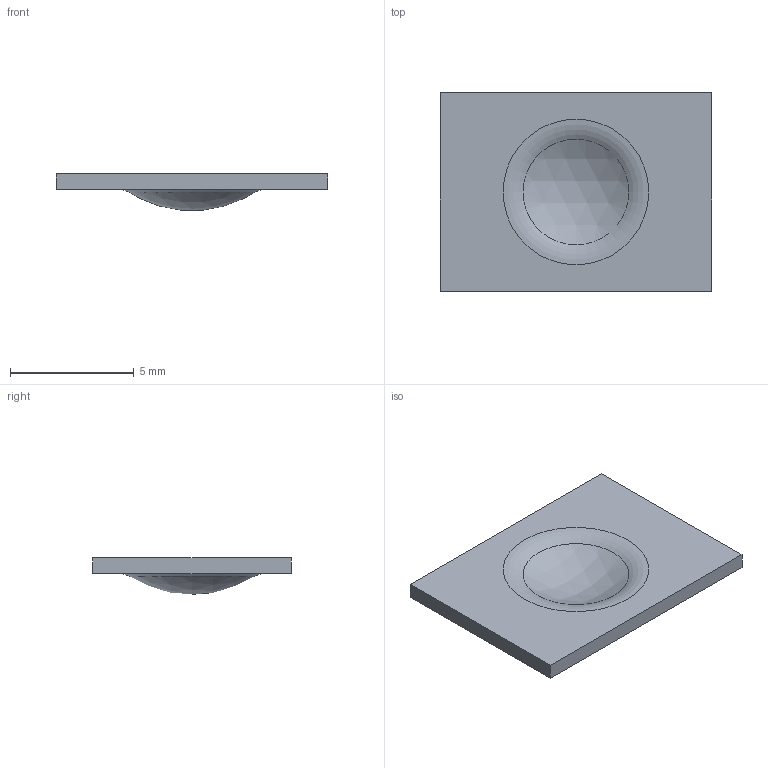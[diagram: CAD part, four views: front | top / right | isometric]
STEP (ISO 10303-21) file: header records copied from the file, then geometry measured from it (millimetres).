
FILE_DESCRIPTION((''),'1');
FILE_NAME('C:/Users/ericfrey/Desktop/DIMPLE 16-0198-02 REV NONE.stp', '2018-09-06T19:50:00',(''), (''), 'KCM Version 1.1.2450.0', 'KeyCreator', '');
FILE_SCHEMA(('AUTOMOTIVE_DESIGN'));
Length unit declared in the file: inch
Bounding box: 10.94 x 8 x 1.47 mm (x, y, z)
Volume: 57.2 mm3; surface area: 203.1 mm2
Topology: 1 solids, 1 shells, 10 faces, 21 edges, 15 vertices
Faces by surface type: plane 6, torus 2, sphere 2
Entity records: 288 total; most frequent: DIRECTION 46, CARTESIAN_POINT 44, ORIENTED_EDGE 42, EDGE_CURVE 21, AXIS2_PLACEMENT_3D 17, VERTEX_POINT 15, VECTOR 12, LINE 12
